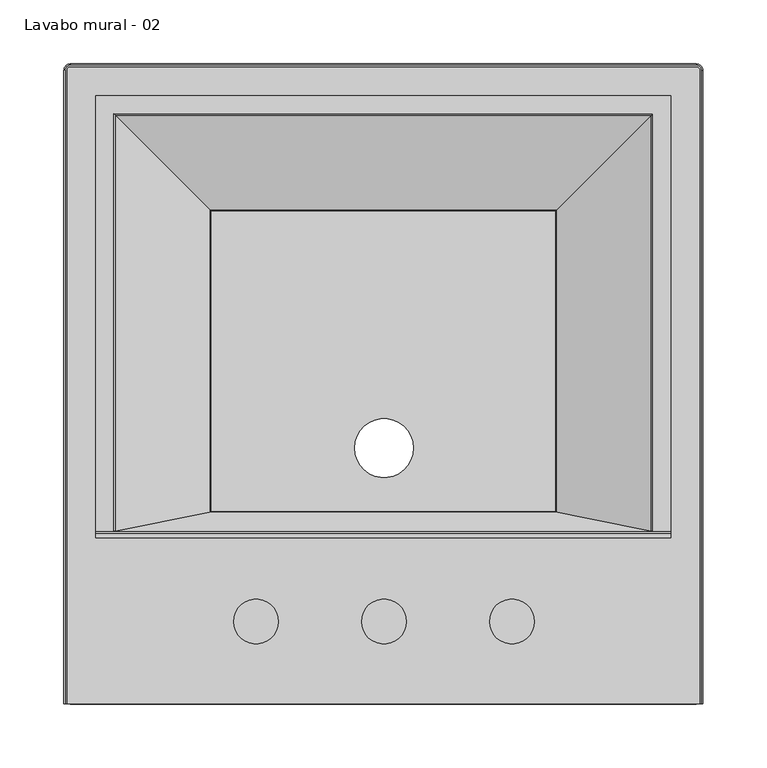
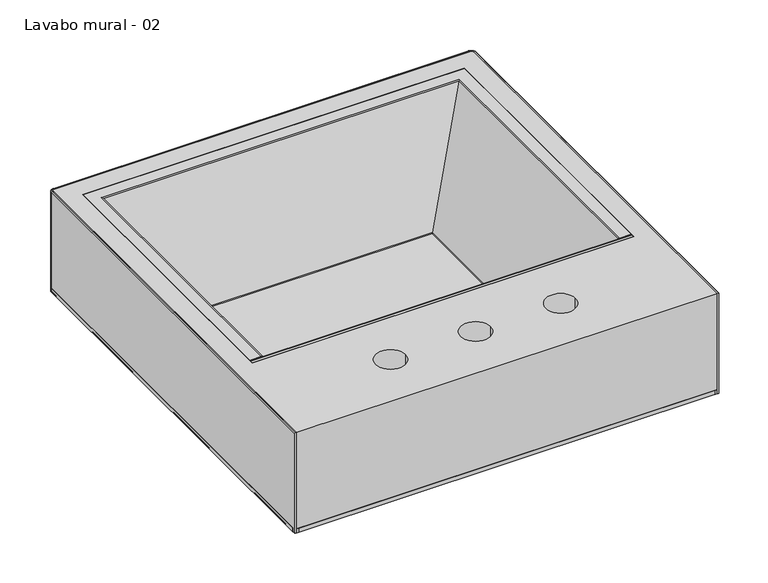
"""IFC4 building model written with IfcOpenShell, lengths in millimetres: flow terminal geometry, Lavabo mural - 02 : 500 mm x 500 mm."""

from ifc_helpers import new_model, si_unit, point, frame, frame_2d, origin, place, context, project, spatial, polyline, circle_curve, ellipse_curve, trimmed, segment, composite_curve, outline, extrude, source, transform, mapped, element, save
from ifc_brep_helpers import plane_surface, cylinder_surface, revolved_surface, advanced_brep


def lavabo_mural_02_2417838b(model_context):
    return source(origin(), model_context, "Body", "SolidModel", [
        extrude(outline(composite_curve([segment(trimmed(circle_curve(frame_2d((-119.4895, 595.0)), 5.0), [point((-124.4895, 595.0))], [point((-119.4895, 600.0))], False, "CARTESIAN"), True, "CONTINUOUS"), segment(polyline([(-119.4895, 600.0), (369.4895, 600.0)]), True, "CONTINUOUS"), segment(trimmed(circle_curve(frame_2d((369.4895, 595.0)), 5.0), [point((369.4895, 600.0))], [point((374.4895, 595.0))], False, "CARTESIAN"), True, "CONTINUOUS"), segment(polyline([(374.4895, 595.0), (374.4895, 105.0)]), True, "CONTINUOUS"), segment(trimmed(circle_curve(frame_2d((369.4895, 105.0)), 5.0), [point((374.4895, 105.0))], [point((369.4895, 100.0))], False, "CARTESIAN"), True, "CONTINUOUS"), segment(polyline([(369.4895, 100.0), (-119.4895, 100.0)]), True, "CONTINUOUS"), segment(trimmed(circle_curve(frame_2d((-119.4895, 105.0)), 5.0), [point((-119.4895, 100.0))], [point((-124.4895, 105.0))], False, "CARTESIAN"), True, "CONTINUOUS"), segment(polyline([(-124.4895, 105.0), (-124.4895, 595.0)]), True, "CONTINUOUS")], self_intersect=False), holes=[composite_curve([segment(trimmed(circle_curve(frame_2d((125.5105, 300.0)), 23.0), [point((148.5105, 300.0))], [point((102.5105, 300.0))], True, "CARTESIAN"), True, "CONTINUOUS"), segment(trimmed(circle_curve(frame_2d((125.5105, 300.0)), 23.0), [point((102.5105, 300.0))], [point((148.5105, 300.0))], True, "CARTESIAN"), True, "CONTINUOUS")], self_intersect=False)]), frame((0.0, 0.0, 624.95758), z_axis=(0.0, 0.0, 1.0), x_axis=(1.0, 0.0, 0.0)), (0.0, 0.0, 1.0), 5.04242),
        advanced_brep(
        [(-123.4895, 100.0, 750.0), (-124.4895, 100.0, 749.0), (-124.4895, 100.0, 626.0), (-123.4895, 100.0, 625.0), (-122.4895, 100.0, 625.0), (-122.4895, 100.0, 750.0), (-123.4895, 595.0, 750.0), (-124.4895, 595.0, 749.0), (-124.4895, 595.0, 626.0), (-123.4895, 595.0, 625.0), (-119.4895, 599.0, 625.0), (369.4895, 599.0, 625.0), (373.4895, 595.0, 625.0), (373.4895, 100.0, 625.0), (372.4895, 100.0, 625.0), (372.4895, 595.0, 625.0), (369.4895, 598.0, 625.0), (-119.4895, 598.0, 625.0), (-122.4895, 595.0, 625.0), (-122.4895, 595.0, 750.0), (-119.4895, 598.0, 750.0), (369.4895, 598.0, 750.0), (372.4895, 595.0, 750.0), (372.4895, 100.0, 750.0), (373.4895, 100.0, 750.0), (373.4895, 595.0, 750.0), (369.4895, 599.0, 750.0), (-119.4895, 599.0, 750.0), (-119.4895, 600.0, 749.0), (-119.4895, 600.0, 626.0), (369.4895, 600.0, 749.0), (369.4895, 600.0, 626.0), (374.4895, 595.0, 749.0), (374.4895, 595.0, 626.0), (374.4895, 100.0, 626.0), (374.4895, 100.0, 749.0)],
        [
            (0, 1, circle_curve(frame((-123.4895, 100.0, 749.0), z_axis=(0.0, -1.0, 0.0), x_axis=(-1.0, 0.0, 0.0)), 1.0)),
            (1, 2),
            (2, 3, circle_curve(frame((-123.4895, 100.0, 626.0), z_axis=(0.0, -1.0, 0.0), x_axis=(-1.0, 0.0, 0.0)), 1.0)),
            (3, 4),
            (4, 5),
            (5, 0),
            (0, 6),
            (6, 7, circle_curve(frame((-123.4895, 595.0, 749.0), z_axis=(0.0, -1.0, 0.0), x_axis=(-1.0, 0.0, 0.0)), 1.0)),
            (7, 1),
            (7, 8),
            (8, 2),
            (8, 9, circle_curve(frame((-123.4895, 595.0, 626.0), z_axis=(0.0, -1.0, 0.0), x_axis=(-1.0, 0.0, 0.0)), 1.0)),
            (9, 3),
            (9, 10, circle_curve(frame((-119.4895, 595.0, 625.0), z_axis=(0.0, 0.0, -1.0), x_axis=(-1.0, 0.0, 0.0)), 4.0)),
            (10, 11),
            (11, 12, circle_curve(frame((369.4895, 595.0, 625.0), z_axis=(0.0, 0.0, -1.0), x_axis=(0.0, 1.0, 0.0)), 4.0)),
            (12, 13),
            (13, 14),
            (14, 15),
            (15, 16, circle_curve(frame((369.4895, 595.0, 625.0), z_axis=(0.0, 0.0, 1.0), x_axis=(0.0, 1.0, 0.0)), 3.0)),
            (16, 17),
            (17, 18, circle_curve(frame((-119.4895, 595.0, 625.0), z_axis=(0.0, 0.0, 1.0), x_axis=(-1.0, 0.0, 0.0)), 3.0)),
            (18, 4),
            (18, 19),
            (19, 5),
            (19, 20, circle_curve(frame((-119.4895, 595.0, 750.0), z_axis=(0.0, 0.0, -1.0), x_axis=(-1.0, 0.0, 0.0)), 3.0)),
            (20, 21),
            (21, 22, circle_curve(frame((369.4895, 595.0, 750.0), z_axis=(0.0, 0.0, -1.0), x_axis=(0.0, 1.0, 0.0)), 3.0)),
            (22, 23),
            (23, 24),
            (24, 25),
            (25, 26, circle_curve(frame((369.4895, 595.0, 750.0), z_axis=(0.0, 0.0, 1.0), x_axis=(0.0, 1.0, 0.0)), 4.0)),
            (26, 27),
            (27, 6, circle_curve(frame((-119.4895, 595.0, 750.0), z_axis=(0.0, 0.0, 1.0), x_axis=(-1.0, 0.0, 0.0)), 4.0)),
            (28, 7, circle_curve(frame((-119.4895, 595.0, 749.0), z_axis=(0.0, 0.0, 1.0), x_axis=(-1.0, 0.0, 0.0)), 5.0)),
            (27, 28, circle_curve(frame((-119.4895, 599.0, 749.0), z_axis=(-1.0, 0.0, 0.0), x_axis=(0.0, 1.0, 0.0)), 1.0)),
            (29, 8, circle_curve(frame((-119.4895, 595.0, 626.0), z_axis=(0.0, 0.0, 1.0), x_axis=(-1.0, 0.0, 0.0)), 5.0)),
            (28, 29),
            (29, 10, circle_curve(frame((-119.4895, 599.0, 626.0), z_axis=(-1.0, 0.0, 0.0), x_axis=(0.0, 1.0, 0.0)), 1.0)),
            (17, 20),
            (26, 30, circle_curve(frame((369.4895, 599.0, 749.0), z_axis=(-1.0, 0.0, 0.0), x_axis=(0.0, 1.0, 0.0)), 1.0)),
            (30, 28),
            (30, 31),
            (31, 29),
            (31, 11, circle_curve(frame((369.4895, 599.0, 626.0), z_axis=(-1.0, 0.0, 0.0), x_axis=(0.0, 1.0, 0.0)), 1.0)),
            (16, 21),
            (32, 30, circle_curve(frame((369.4895, 595.0, 749.0), z_axis=(0.0, 0.0, 1.0), x_axis=(0.0, 1.0, 0.0)), 5.0)),
            (25, 32, circle_curve(frame((373.4895, 595.0, 749.0), z_axis=(0.0, 1.0, 0.0), x_axis=(1.0, 0.0, 0.0)), 1.0)),
            (33, 31, circle_curve(frame((369.4895, 595.0, 626.0), z_axis=(0.0, 0.0, 1.0), x_axis=(0.0, 1.0, 0.0)), 5.0)),
            (32, 33),
            (33, 12, circle_curve(frame((373.4895, 595.0, 626.0), z_axis=(0.0, 1.0, 0.0), x_axis=(1.0, 0.0, 0.0)), 1.0)),
            (15, 22),
            (23, 14),
            (13, 34, circle_curve(frame((373.4895, 100.0, 626.0), z_axis=(0.0, -1.0, 0.0), x_axis=(1.0, 0.0, 0.0)), 1.0)),
            (34, 35),
            (35, 24, circle_curve(frame((373.4895, 100.0, 749.0), z_axis=(0.0, -1.0, 0.0), x_axis=(1.0, 0.0, 0.0)), 1.0)),
            (35, 32),
            (34, 33),
        ],
        [
            plane_surface(frame((-124.4895, 100.0, 630.0), z_axis=(0.0, -1.0, 0.0), x_axis=(0.0, 0.0, 1.0))),
            cylinder_surface(frame((-123.4895, 100.0, 749.0), z_axis=(0.0, -1.0, 0.0), x_axis=(-1.0, 0.0, 0.0)), 1.0),
            plane_surface(frame((-124.4895, 100.0, 749.0), z_axis=(-1.0, 0.0, 0.0), x_axis=(0.0, 1.0, 0.0))),
            cylinder_surface(frame((-123.4895, 100.0, 626.0), z_axis=(0.0, -1.0, 0.0), x_axis=(-1.0, 0.0, 0.0)), 1.0),
            plane_surface(frame((-123.4895, 100.0, 625.0), z_axis=(0.0, 0.0, -1.0), x_axis=(0.0, 1.0, 0.0))),
            plane_surface(frame((-122.4895, 100.0, 625.0), z_axis=(1.0, 0.0, 0.0), x_axis=(0.0, 1.0, 0.0))),
            plane_surface(frame((-122.4895, 100.0, 750.0), z_axis=(0.0, 0.0, 1.0), x_axis=(0.0, 1.0, 0.0))),
            revolved_surface(trimmed(ellipse_curve(frame((-123.4895, 595.0, 749.0), z_axis=(0.0, -1.0, 0.0), x_axis=(-1.0, 0.0, 0.0)), 1.0, 1.0), [point((-123.4895, 595.0, 750.0))], [point((-124.4895, 595.0, 749.0))], True, "CARTESIAN"), (-119.4895, 595.0, 630.0), (0.0, 0.0, -1.0)),
            cylinder_surface(frame((-119.4895, 595.0, 630.0), z_axis=(0.0, 0.0, -1.0), x_axis=(-1.0, 0.0, 0.0)), 5.0),
            revolved_surface(trimmed(ellipse_curve(frame((-123.4895, 595.0, 626.0), z_axis=(0.0, -1.0, 0.0), x_axis=(-1.0, 0.0, 0.0)), 1.0, 1.0), [point((-124.4895, 595.0, 626.0))], [point((-123.4895, 595.0, 625.0))], True, "CARTESIAN"), (-119.4895, 595.0, 630.0), (0.0, 0.0, -1.0)),
            revolved_surface(polyline([(-122.4895, 595.0, 625.0), (-122.4895, 595.0, 750.0)]), (-119.4895, 595.0, 630.0), (0.0, 0.0, -1.0)),
            cylinder_surface(frame((-119.4895, 599.0, 749.0), z_axis=(-1.0, 0.0, 0.0), x_axis=(0.0, 1.0, 0.0)), 1.0),
            plane_surface(frame((-119.4895, 600.0, 749.0), z_axis=(0.0, 1.0, 0.0), x_axis=(1.0, 0.0, 0.0))),
            cylinder_surface(frame((-119.4895, 599.0, 626.0), z_axis=(-1.0, 0.0, 0.0), x_axis=(0.0, 1.0, 0.0)), 1.0),
            plane_surface(frame((-119.4895, 598.0, 625.0), z_axis=(0.0, -1.0, 0.0), x_axis=(1.0, 0.0, 0.0))),
            revolved_surface(trimmed(ellipse_curve(frame((369.4895, 599.0, 749.0), z_axis=(-1.0, 0.0, 0.0), x_axis=(0.0, 1.0, 0.0)), 1.0, 1.0), [point((369.4895, 599.0, 750.0))], [point((369.4895, 600.0, 749.0))], True, "CARTESIAN"), (369.4895, 595.0, 630.0), (0.0, 0.0, -1.0)),
            cylinder_surface(frame((369.4895, 595.0, 630.0), z_axis=(0.0, 0.0, -1.0), x_axis=(0.0, 1.0, 0.0)), 5.0),
            revolved_surface(trimmed(ellipse_curve(frame((369.4895, 599.0, 626.0), z_axis=(-1.0, 0.0, 0.0), x_axis=(0.0, 1.0, 0.0)), 1.0, 1.0), [point((369.4895, 600.0, 626.0))], [point((369.4895, 599.0, 625.0))], True, "CARTESIAN"), (369.4895, 595.0, 630.0), (0.0, 0.0, -1.0)),
            revolved_surface(polyline([(369.4895, 598.0, 625.0), (369.4895, 598.0, 750.0)]), (369.4895, 595.0, 630.0), (0.0, 0.0, -1.0)),
            plane_surface(frame((374.4895, 100.0, 630.0), z_axis=(0.0, -1.0, 0.0), x_axis=(0.0, 0.0, 1.0))),
            cylinder_surface(frame((373.4895, 595.0, 749.0), z_axis=(0.0, 1.0, 0.0), x_axis=(1.0, 0.0, 0.0)), 1.0),
            plane_surface(frame((374.4895, 595.0, 749.0), z_axis=(1.0, 0.0, 0.0), x_axis=(0.0, -1.0, 0.0))),
            cylinder_surface(frame((373.4895, 595.0, 626.0), z_axis=(0.0, 1.0, 0.0), x_axis=(1.0, 0.0, 0.0)), 1.0),
            plane_surface(frame((372.4895, 595.0, 625.0), z_axis=(-1.0, 0.0, 0.0), x_axis=(0.0, -1.0, 0.0))),
        ],
        [
            (0, [[1, 2, 3, 4, 5, 6]]),
            (1, [[-1, 7, 8, 9]]),
            (2, [[-2, -9, 10, 11]]),
            (3, [[-3, -11, 12, 13]]),
            (4, [[-4, -13, 14, 15, 16, 17, 18, 19, 20, 21, 22, 23]]),
            (5, [[-5, -23, 24, 25]]),
            (6, [[-6, -25, 26, 27, 28, 29, 30, 31, 32, 33, 34, -7]]),
            (7, [[35, -8, -34, 36]]),
            (8, [[37, -10, -35, 38]]),
            (9, [[-14, -12, -37, 39]]),
            (10, [[-26, -24, -22, 40]]),
            (11, [[-36, -33, 41, 42]]),
            (12, [[-38, -42, 43, 44]]),
            (13, [[-39, -44, 45, -15]]),
            (14, [[-40, -21, 46, -27]]),
            (15, [[47, -41, -32, 48]]),
            (16, [[49, -43, -47, 50]]),
            (17, [[-16, -45, -49, 51]]),
            (18, [[-28, -46, -20, 52]]),
            (19, [[-30, 53, -18, 54, 55, 56]]),
            (20, [[-48, -31, -56, 57]]),
            (21, [[-50, -57, -55, 58]]),
            (22, [[-51, -58, -54, -17]]),
            (23, [[-52, -19, -53, -29]]),
        ],
    ),
        extrude(outline(composite_curve([segment(trimmed(circle_curve(frame_2d((369.4895, 595.0)), 3.0), [point((369.4895, 598.0))], [point((372.4895, 595.0))], False, "CARTESIAN"), True, "CONTINUOUS"), segment(polyline([(372.4895, 595.0), (372.4895, 100.0), (-122.4895, 100.0), (-122.4895, 595.0)]), True, "CONTINUOUS"), segment(trimmed(circle_curve(frame_2d((-119.4895, 595.0)), 3.0), [point((-122.4895, 595.0))], [point((-119.4895, 598.0))], False, "CARTESIAN"), True, "CONTINUOUS"), segment(polyline([(-119.4895, 598.0), (369.4895, 598.0)]), True, "CONTINUOUS")], self_intersect=False), holes=[composite_curve([segment(trimmed(circle_curve(frame_2d((25.51071, 164.360641)), 17.5), [point((8.01071, 164.360641))], [point((43.01071, 164.360641))], True, "CARTESIAN"), True, "CONTINUOUS"), segment(trimmed(circle_curve(frame_2d((25.51071, 164.360641)), 17.5), [point((43.01071, 164.360641))], [point((8.01071, 164.360641))], True, "CARTESIAN"), True, "CONTINUOUS")], self_intersect=False), composite_curve([segment(trimmed(circle_curve(frame_2d((125.51071, 164.360641)), 17.5), [point((108.01071, 164.360641))], [point((143.01071, 164.360641))], True, "CARTESIAN"), True, "CONTINUOUS"), segment(trimmed(circle_curve(frame_2d((125.51071, 164.360641)), 17.5), [point((143.01071, 164.360641))], [point((108.01071, 164.360641))], True, "CARTESIAN"), True, "CONTINUOUS")], self_intersect=False), composite_curve([segment(trimmed(circle_curve(frame_2d((225.51071, 164.360641)), 17.5), [point((243.01071, 164.360641))], [point((208.01071, 164.360641))], True, "CARTESIAN"), True, "CONTINUOUS"), segment(trimmed(circle_curve(frame_2d((225.51071, 164.360641)), 17.5), [point((208.01071, 164.360641))], [point((243.01071, 164.360641))], True, "CARTESIAN"), True, "CONTINUOUS")], self_intersect=False), polyline([(-99.4895, 575.0), (-99.4895, 230.0), (349.4895, 230.0), (349.4895, 575.0), (-99.4895, 575.0)])]), frame((0.0, 0.0, 630.0), z_axis=(0.0, 0.0, 1.0), x_axis=(1.0, 0.0, 0.0)), (0.0, 0.0, 1.0), 120.0),
        extrude(outline(composite_curve([segment(polyline([(235.1022771, 748.2507881), (249.827107, 631.7492119)]), True, "CONTINUOUS"), segment(trimmed(circle_curve(frame_2d((251.811321, 632.0)), 2.0), [point((249.827107, 631.7492119))], [point((251.811321, 630.0))], True, "CARTESIAN"), True, "CONTINUOUS"), segment(polyline([(251.811321, 630.0), (255.6855127, 630.0), (255.6855127, 624.95758), (245.6855127, 624.95758), (229.8811913, 750.0), (233.1180631, 750.0)]), True, "CONTINUOUS"), segment(trimmed(circle_curve(frame_2d((233.1180631, 748.0)), 2.0), [point((233.1180631, 750.0))], [point((235.1022771, 748.2507881))], False, "CARTESIAN"), True, "CONTINUOUS")], self_intersect=False)), frame((-99.4895, 0.0, 0.0), z_axis=(1.0, 0.0, 0.0), x_axis=(0.0, 1.0, 0.0)), (0.0, 0.0, 1.0), 448.979),
        advanced_brep(
        [(-99.4895, 235.0, 750.0), (-99.4895, 235.0, 745.0), (-87.260742, 235.0, 745.0), (-12.2344223, 235.0, 624.95758), (-4.1362711, 235.0, 624.95758), (-4.1362711, 235.0, 630.0), (-8.381196, 235.0, 630.0), (-10.0771938, 235.0, 630.9400041), (-83.901999, 235.0, 749.0599959), (-85.5979968, 235.0, 750.0), (-99.4895, 575.0, 750.0), (-99.4895, 575.0, 745.0), (349.4895, 575.0, 745.0), (349.4895, 235.0, 745.0), (337.260742, 235.0, 745.0), (337.260742, 562.771242, 745.0), (-87.260742, 562.771242, 745.0), (-12.2344223, 487.7449223, 624.95758), (262.2344223, 487.7449223, 624.95758), (262.2344223, 235.0, 624.95758), (254.1362711, 235.0, 624.95758), (254.1362711, 479.6467711, 624.95758), (-4.1362711, 479.6467711, 624.95758), (-4.1362711, 479.6467711, 630.0), (254.1362711, 479.6467711, 630.0), (254.1362711, 235.0, 630.0), (258.381196, 235.0, 630.0), (258.381196, 483.891696, 630.0), (-8.381196, 483.891696, 630.0), (-10.0771938, 485.5876938, 630.9400041), (-83.901999, 559.412499, 749.0599959), (-85.5979968, 561.1084968, 750.0), (335.5979968, 561.1084968, 750.0), (335.5979968, 235.0, 750.0), (349.4895, 235.0, 750.0), (349.4895, 575.0, 750.0), (260.0771938, 485.5876938, 630.9400041), (333.901999, 559.412499, 749.0599959), (333.901999, 235.0, 749.0599959), (260.0771938, 235.0, 630.9400041)],
        [
            (0, 1),
            (1, 2),
            (2, 3),
            (3, 4),
            (4, 5),
            (5, 6),
            (6, 7, circle_curve(frame((-8.381196, 235.0, 632.0), z_axis=(0.0, 1.0, 0.0), x_axis=(-1.0, 0.0, 0.0)), 2.0)),
            (7, 8),
            (8, 9, circle_curve(frame((-85.5979968, 235.0, 748.0), z_axis=(0.0, -1.0, 0.0), x_axis=(-1.0, 0.0, 0.0)), 2.0)),
            (9, 0),
            (0, 10),
            (10, 11),
            (11, 1),
            (11, 12),
            (12, 13),
            (13, 14),
            (14, 15),
            (15, 16),
            (16, 2),
            (16, 17),
            (17, 3),
            (17, 18),
            (18, 19),
            (19, 20),
            (20, 21),
            (21, 22),
            (22, 4),
            (22, 23),
            (23, 5),
            (23, 24),
            (24, 25),
            (25, 26),
            (26, 27),
            (27, 28),
            (28, 6),
            (28, 29, ellipse_curve(frame((-8.381196, 483.891696, 632.0), z_axis=(0.7071067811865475, 0.7071067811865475, 0.0), x_axis=(-0.7071067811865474, 0.7071067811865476, 0.0)), 2.8284271, 2.0)),
            (29, 7),
            (29, 30),
            (30, 8),
            (30, 31, ellipse_curve(frame((-85.5979968, 561.1084968, 748.0), z_axis=(-0.7071067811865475, -0.7071067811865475, 0.0), x_axis=(0.7071067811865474, -0.7071067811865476, 0.0)), 2.8284271, 2.0)),
            (31, 9),
            (31, 32),
            (32, 33),
            (33, 34),
            (34, 35),
            (35, 10),
            (35, 12),
            (15, 18),
            (21, 24),
            (27, 36, ellipse_curve(frame((258.381196, 483.891696, 632.0), z_axis=(0.7071067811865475, -0.7071067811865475, 0.0), x_axis=(0.7071067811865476, 0.7071067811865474, 0.0)), 2.8284271, 2.0)),
            (36, 29),
            (36, 37),
            (37, 30),
            (37, 32, ellipse_curve(frame((335.5979968, 561.1084968, 748.0), z_axis=(-0.7071067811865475, 0.7071067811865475, 0.0), x_axis=(-0.7071067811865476, -0.7071067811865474, 0.0)), 2.8284271, 2.0)),
            (33, 38, circle_curve(frame((335.5979968, 235.0, 748.0), z_axis=(0.0, -1.0, 0.0), x_axis=(1.0, 0.0, 0.0)), 2.0)),
            (38, 39),
            (39, 26, circle_curve(frame((258.381196, 235.0, 632.0), z_axis=(0.0, 1.0, 0.0), x_axis=(1.0, 0.0, 0.0)), 2.0)),
            (25, 20),
            (19, 14),
            (13, 34),
            (39, 36),
            (38, 37),
        ],
        [
            plane_surface(frame((-99.4895, 235.0, 630.0), z_axis=(0.0, -1.0, 0.0), x_axis=(0.0, 0.0, 1.0))),
            plane_surface(frame((-99.4895, 235.0, 750.0), z_axis=(-1.0, 0.0, 0.0), x_axis=(0.0, 1.0, 0.0))),
            plane_surface(frame((-99.4895, 235.0, 745.0), z_axis=(0.0, 0.0, -1.0), x_axis=(0.0, 1.0, 0.0))),
            plane_surface(frame((-87.260742, 235.0, 745.0), z_axis=(-0.8479989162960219, 0.0, -0.5299979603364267), x_axis=(0.0, 1.0, 0.0))),
            plane_surface(frame((-12.2344223, 235.0, 624.95758), z_axis=(0.0, 0.0, -1.0), x_axis=(0.0, 1.0, 0.0))),
            plane_surface(frame((-4.1362711, 235.0, 624.95758), z_axis=(1.0, 0.0, 0.0), x_axis=(0.0, 1.0, 0.0))),
            plane_surface(frame((-4.1362711, 235.0, 630.0), z_axis=(0.0, 0.0, 1.0), x_axis=(0.0, 1.0, 0.0))),
            revolved_surface(polyline([(-10.381196, 485.8916959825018, 632.0), (-10.381196, 235.0, 632.0)]), (-8.381196, 235.0, 632.0), (0.0, 1.0, 0.0)),
            plane_surface(frame((-10.0771938, 235.0, 630.9400041), z_axis=(0.8479989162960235, 0.0, 0.529997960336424), x_axis=(0.0, 1.0, 0.0))),
            cylinder_surface(frame((-85.5979968, 235.0, 748.0), z_axis=(0.0, -1.0, 0.0), x_axis=(-1.0, 0.0, 0.0)), 2.0),
            plane_surface(frame((-85.5979968, 235.0, 750.0), z_axis=(0.0, 0.0, 1.0), x_axis=(0.0, 1.0, 0.0))),
            plane_surface(frame((-99.4895, 575.0, 750.0), z_axis=(0.0, 1.0, 0.0), x_axis=(1.0, 0.0, 0.0))),
            plane_surface(frame((-87.260742, 562.771242, 745.0), z_axis=(0.0, 0.8479989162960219, -0.5299979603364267), x_axis=(1.0, 0.0, 0.0))),
            plane_surface(frame((-4.1362711, 479.6467711, 624.95758), z_axis=(0.0, -1.0, 0.0), x_axis=(1.0, 0.0, 0.0))),
            revolved_surface(polyline([(260.38119598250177, 485.891696, 632.0), (-10.381195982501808, 485.891696, 632.0)]), (-99.4895, 483.891696, 632.0), (1.0, 0.0, 0.0)),
            plane_surface(frame((-10.0771938, 485.5876938, 630.9400041), z_axis=(0.0, -0.8479989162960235, 0.529997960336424), x_axis=(1.0, 0.0, 0.0))),
            cylinder_surface(frame((-99.4895, 561.1084968, 748.0), z_axis=(-1.0, 0.0, 0.0), x_axis=(0.0, 1.0, 0.0)), 2.0),
            plane_surface(frame((349.4895, 235.0, 630.0), z_axis=(0.0, -1.0, 0.0), x_axis=(0.0, 0.0, 1.0))),
            plane_surface(frame((349.4895, 575.0, 750.0), z_axis=(1.0, 0.0, 0.0), x_axis=(0.0, -1.0, 0.0))),
            plane_surface(frame((337.260742, 562.771242, 745.0), z_axis=(0.8479989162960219, 0.0, -0.5299979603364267), x_axis=(0.0, -1.0, 0.0))),
            plane_surface(frame((254.1362711, 479.6467711, 624.95758), z_axis=(-1.0, 0.0, 0.0), x_axis=(0.0, -1.0, 0.0))),
            revolved_surface(polyline([(260.381196, 235.0, 632.0), (260.381196, 485.8916959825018, 632.0)]), (258.381196, 575.0, 632.0), (0.0, -1.0, 0.0)),
            plane_surface(frame((260.0771938, 485.5876938, 630.9400041), z_axis=(-0.8479989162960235, 0.0, 0.529997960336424), x_axis=(0.0, -1.0, 0.0))),
            cylinder_surface(frame((335.5979968, 575.0, 748.0), z_axis=(0.0, 1.0, 0.0), x_axis=(1.0, 0.0, 0.0)), 2.0),
        ],
        [
            (0, [[1, 2, 3, 4, 5, 6, 7, 8, 9, 10]]),
            (1, [[-1, 11, 12, 13]]),
            (2, [[-2, -13, 14, 15, 16, 17, 18, 19]]),
            (3, [[-3, -19, 20, 21]]),
            (4, [[-4, -21, 22, 23, 24, 25, 26, 27]]),
            (5, [[-5, -27, 28, 29]]),
            (6, [[-6, -29, 30, 31, 32, 33, 34, 35]]),
            (7, [[-7, -35, 36, 37]]),
            (8, [[-8, -37, 38, 39]]),
            (9, [[-9, -39, 40, 41]]),
            (10, [[-10, -41, 42, 43, 44, 45, 46, -11]]),
            (11, [[-12, -46, 47, -14]]),
            (12, [[-20, -18, 48, -22]]),
            (13, [[-28, -26, 49, -30]]),
            (14, [[-36, -34, 50, 51]]),
            (15, [[-38, -51, 52, 53]]),
            (16, [[-40, -53, 54, -42]]),
            (17, [[-44, 55, 56, 57, -32, 58, -24, 59, -16, 60]]),
            (18, [[-47, -45, -60, -15]]),
            (19, [[-48, -17, -59, -23]]),
            (20, [[-49, -25, -58, -31]]),
            (21, [[-50, -33, -57, 61]]),
            (22, [[-52, -61, -56, 62]]),
            (23, [[-54, -62, -55, -43]]),
        ],
    ),
    ])


if __name__ == "__main__":
    model = new_model("IFC4")
    model_context = context("Model", 3, world=origin())
    ifc_project = project(units=[si_unit("LENGTHUNIT", "METRE", prefix="MILLI")], contexts=[model_context])
    site = spatial("IfcSite", under=ifc_project)
    building = spatial("IfcBuilding", under=site)
    placement = place(None, origin())
    lavabo_mural_02_shape = lavabo_mural_02_2417838b(model_context)
    element("IfcFlowTerminal", 1, ObjectType="Lavabo mural - 02 : 500 mm x 500 mm", at=placement, inside=building, context=model_context, shape_type="MappedRepresentation", body=[
        mapped(lavabo_mural_02_shape, transform((0.0, 0.0, 0.0), x_axis=(1.0, 0.0, 0.0), y_axis=(0.0, 1.0, 0.0), z_axis=(0.0, 0.0, 1.0))),
    ])
    save(model, "model.ifc")
